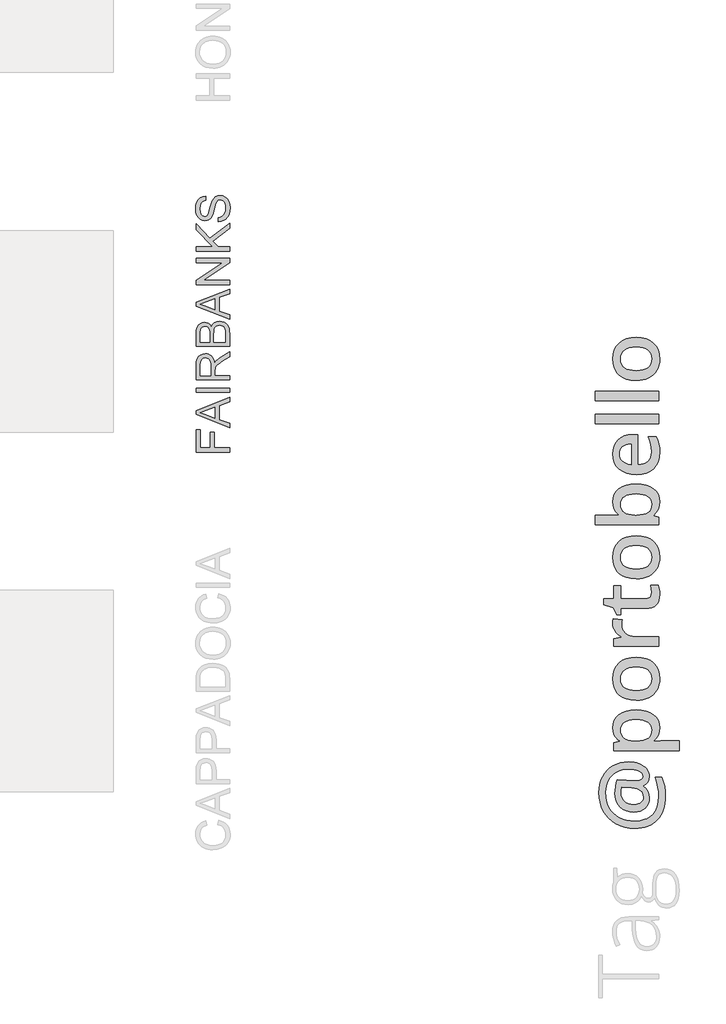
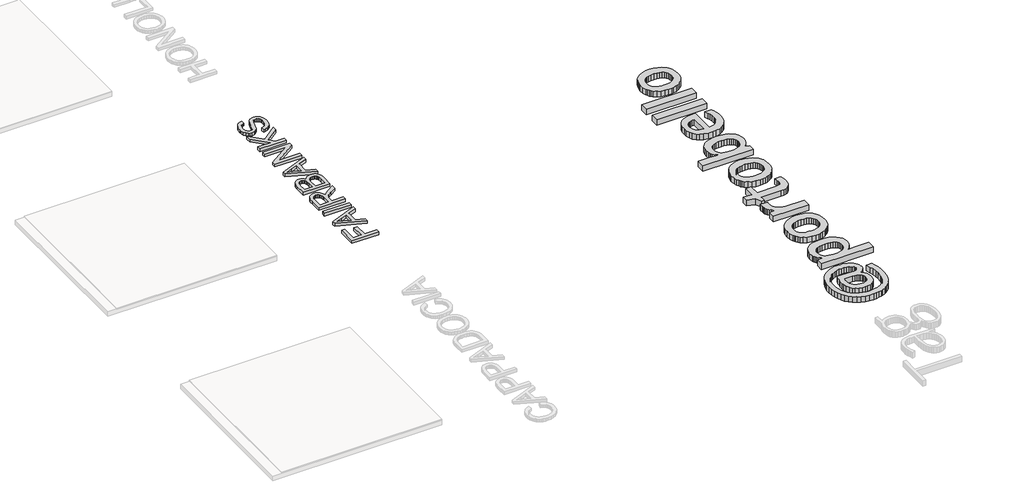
# One storey, part 3 of 7: 2 proxies.
"""IFC4 building model written with IfcOpenShell, lengths in millimetres."""

from ifc_helpers import new_model, si_unit, origin, origin_with_axes, place, context, project, spatial, polyline, outline, extrude, element, save

model = new_model("IFC4")

# Units and contexts
model_context = context("Model", 3, world=origin())
ifc_project = project(units=[si_unit("LENGTHUNIT", "METRE", prefix="MILLI")], contexts=[model_context])

# Site, building, storey
site = spatial("IfcSite", under=ifc_project)
building = spatial("IfcBuilding", under=site)
storey = spatial("IfcBuildingStorey", under=building, Name="PORTOBELLO - SHOWROOM", Elevation=0.0)

# Proxies
placement = place(None, origin())
element("IfcBuildingElementProxy", 1, Name="450mm Arial", ObjectType="450mm Arial", at=placement, inside=storey, context=model_context, shape_type="SweptSolid", body=[
    extrude(outline(polyline([(49549.5356427, -4833.0640138), (49099.8794999, -4833.0640138), (49099.8794999, -4530.9512928), (49156.0865178, -4530.9512928), (49156.0865178, -4776.8569959), (49289.5781852, -4776.8569959), (49289.5781852, -4566.080679), (49345.785203, -4566.080679), (49345.785203, -4776.8569959), (49549.5356427, -4776.8569959), (49549.5356427, -4833.0640138)])), origin_with_axes(), (0.0, 0.0, 1.0), 50.0),
    extrude(outline(polyline([(49549.5356427, -4506.0313845), (49099.8794999, -4326.5421771), (49099.8794999, -4278.6783885), (49549.5356427, -4099.1891811), (49549.5356427, -4158.5797995), (49409.0180981, -4210.0663061), (49409.0180981, -4395.2640388), (49549.5356427, -4446.640766), (49549.5356427, -4506.0313845)]), holes=[polyline([(49352.8110803, -4374.6255244), (49352.8110803, -4230.5950412), (49242.2632932, -4271.1036146), (49156.0865178, -4302.6102828), (49232.602712, -4330.6040124), (49352.8110803, -4374.6255244)])]), origin_with_axes(), (0.0, 0.0, 1.0), 50.0),
    extrude(outline(polyline([(49549.5356427, -4032.1140094), (49099.8794999, -4032.1140094), (49099.8794999, -3975.9069915), (49549.5356427, -3975.9069915), (49549.5356427, -4032.1140094)])), origin_with_axes(), (0.0, 0.0, 1.0), 50.0),
    extrude(outline(polyline([(49549.5356427, -3863.4929558), (49099.8794999, -3863.4929558), (49099.8794999, -3669.7324353), (49102.912154, -3617.6558648), (49112.0101161, -3579.7682729), (49128.8063538, -3552.0764365), (49154.9338348, -3530.5871323), (49187.3324601, -3516.7961038), (49222.9421308, -3512.1990942), (49246.0369577, -3514.1030795), (49267.2380912, -3519.8150354), (49286.5455311, -3529.3349618), (49303.9592776, -3542.6628588), (49318.9235728, -3559.9702566), (49330.8826588, -3581.4286853), (49339.8365355, -3607.0381451), (49345.785203, -3636.7986358), (49369.8268767, -3604.8528502), (49427.6805845, -3559.2944276), (49549.5356427, -3484.315144), (49549.5356427, -3549.6338464), (49456.3329901, -3608.1462302), (49394.6370057, -3650.4112729), (49376.6469177, -3666.1234398), (49365.4905931, -3680.1065821), (49354.7871082, -3706.8378494), (49352.8110803, -3739.442311), (49352.8110803, -3807.285938), (49549.5356427, -3807.285938), (49549.5356427, -3863.4929558)]), holes=[polyline([(49296.6040624, -3807.285938), (49296.6040624, -3681.4788238), (49294.614312, -3645.3477012), (49288.6450609, -3617.3128044), (49278.2983588, -3596.2077279), (49263.1762559, -3580.8660663), (49244.8842747, -3571.5211006), (49225.0279381, -3568.4061121), (49210.6537069, -3569.8915637), (49197.61055, -3574.3479184), (49175.5174595, -3592.1733374), (49167.0164225, -3605.782544), (49160.9442532, -3622.8429382), (49156.0865178, -3667.31729), (49156.0865178, -3807.285938), (49296.6040624, -3807.285938)])]), origin_with_axes(), (0.0, 0.0, 1.0), 50.0),
    extrude(outline(polyline([(49549.5356427, -3413.836813), (49099.8794999, -3413.836813), (49099.8794999, -3242.2517175), (49103.1866023, -3195.0603273), (49113.1079094, -3158.215639), (49129.8904247, -3129.974906), (49153.7811518, -3108.5953811), (49181.8846607, -3095.1336905), (49211.3055217, -3090.6464604), (49238.3798493, -3094.4201249), (49263.8349319, -3105.7411185), (49286.1064138, -3124.6917756), (49303.6299396, -3151.3544308), (49320.2615084, -3119.5047022), (49345.5656444, -3095.9707579), (49377.8682127, -3081.4387189), (49415.4950787, -3076.5947059), (49446.8508003, -3079.9018083), (49475.9286008, -3089.8231154), (49500.6563953, -3104.6296027), (49518.9620989, -3122.5922459), (49532.2179532, -3144.5892795), (49541.7961999, -3171.4989382), (49547.600782, -3204.1994566), (49549.5356427, -3243.5690695), (49549.5356427, -3413.836813)]), holes=[polyline([(49282.552308, -3357.6297952), (49282.552308, -3254.98612), (49281.3447353, -3219.0882785), (49277.7220174, -3195.0466048), (49269.3925106, -3174.0650301), (49256.918834, -3158.9840944), (49240.4931015, -3149.8861322), (49220.3074269, -3146.8534782), (49200.7118161, -3149.680296), (49183.6411301, -3158.1607494), (49170.3166637, -3171.9106107), (49161.959712, -3190.5456522), (49157.5548163, -3219.1431682), (49156.0865178, -3262.7804525), (49156.0865178, -3357.6297952), (49282.552308, -3357.6297952)]), polyline([(49493.3286249, -3357.6297952), (49493.3286249, -3242.3614968), (49491.1330383, -3200.6453508), (49486.2615804, -3181.2830211), (49478.8926428, -3165.3512956), (49468.3401045, -3152.3973345), (49453.9178448, -3141.9682979), (49436.2708172, -3135.0933673), (49416.0439754, -3132.8017237), (49392.5511984, -3135.4913174), (49372.3518013, -3143.5600983), (49356.5573, -3157.65302), (49346.27921, -3178.4150361), (49340.6392969, -3207.8221746), (49338.7593258, -3247.8504634), (49338.7593258, -3357.6297952), (49493.3286249, -3357.6297952)])]), origin_with_axes(), (0.0, 0.0, 1.0), 50.0),
    extrude(outline(polyline([(49549.5356427, -3051.6747976), (49099.8794999, -2872.1855902), (49099.8794999, -2824.3218015), (49549.5356427, -2644.8325941), (49549.5356427, -2704.2232126), (49409.0180981, -2755.7097192), (49409.0180981, -2940.9074519), (49549.5356427, -2992.2841791), (49549.5356427, -3051.6747976)]), holes=[polyline([(49352.8110803, -2920.2689375), (49352.8110803, -2776.2384542), (49242.2632932, -2816.7470277), (49156.0865178, -2848.2536959), (49232.602712, -2876.2474255), (49352.8110803, -2920.2689375)])]), origin_with_axes(), (0.0, 0.0, 1.0), 50.0),
    extrude(outline(polyline([(49549.5356427, -2584.7832997), (49099.8794999, -2584.7832997), (49099.8794999, -2524.6242259), (49456.1134314, -2289.696456), (49099.8794999, -2289.696456), (49099.8794999, -2233.4894381), (49549.5356427, -2233.4894381), (49549.5356427, -2293.6485119), (49193.1919319, -2528.5762818), (49549.5356427, -2528.5762818), (49549.5356427, -2584.7832997)])), origin_with_axes(), (0.0, 0.0, 1.0), 50.0),
    extrude(outline(polyline([(49549.5356427, -2135.1271569), (49099.8794999, -2135.1271569), (49099.8794999, -2078.920139), (49319.9870601, -2078.920139), (49099.8794999, -1848.3835424), (49099.8794999, -1769.7815408), (49284.7478946, -1963.3225027), (49549.5356427, -1762.7556636), (49549.5356427, -1831.4775253), (49322.7315434, -2003.1724001), (49394.9663437, -2078.920139), (49549.5356427, -2078.920139), (49549.5356427, -2135.1271569)])), origin_with_axes(), (0.0, 0.0, 1.0), 50.0),
    extrude(outline(polyline([(49394.9663437, -1741.6780319), (49394.9663437, -1685.4710141), (49426.1573963, -1679.0214783), (49451.2282512, -1667.3574243), (49471.1257551, -1649.1615001), (49486.7967547, -1623.1163536), (49496.9650653, -1591.2803474), (49500.3545021, -1555.7118439), (49497.7884102, -1524.3972896), (49490.0901346, -1496.9799014), (49477.9046288, -1474.7633092), (49461.8768464, -1459.0511423), (49443.4750859, -1449.7061767), (49424.1676459, -1446.5911882), (49405.3542129, -1448.923999), (49389.0931494, -1455.9224314), (49375.2197864, -1470.1388548), (49363.5694548, -1494.1256388), (49342.1075954, -1575.9661306), (49327.9048944, -1629.6893911), (49314.3883142, -1664.0640444), (49295.4788243, -1692.0440515), (49272.5623888, -1711.8729433), (49246.1330146, -1723.6879439), (49216.6847089, -1727.6262774), (49183.7646318, -1722.7548196), (49153.0675862, -1708.1404461), (49127.0498845, -1684.1673845), (49108.1678395, -1651.2198625), (49096.6821769, -1611.6718583), (49092.8536227, -1567.8973498), (49096.8605683, -1520.4726784), (49108.8814051, -1478.976091), (49128.6691297, -1444.8896085), (49155.9767385, -1419.6952519), (49189.1026518, -1403.749804), (49226.3452901, -1397.4100476), (49226.3452901, -1453.6170654), (49208.4100918, -1457.3770075), (49192.8077043, -1463.9363226), (49179.5381275, -1473.2950106), (49168.6013616, -1485.4530716), (49160.0522961, -1500.6369254), (49153.9458208, -1519.072992), (49149.0606406, -1565.7017631), (49153.8909311, -1613.4283276), (49159.9287944, -1631.6722803), (49168.3818029, -1646.1700133), (49189.7064381, -1665.106948), (49201.8713603, -1669.8411817), (49215.0380189, -1671.4192596), (49236.6371025, -1666.9457518), (49254.0096817, -1653.5252285), (49269.5434571, -1621.7990016), (49285.4065706, -1561.7497072), (49300.4737839, -1499.7792744), (49313.6198588, -1462.2896326), (49334.0113697, -1430.2477902), (49359.1782815, -1407.8939737), (49388.8461459, -1394.7616212), (49422.7405146, -1390.3841703), (49457.3896162, -1395.4202972), (49489.9803553, -1410.5286777), (49518.0289745, -1435.0918032), (49539.0517166, -1468.4921649), (49552.1840691, -1508.6576779), (49556.56152, -1553.5162573), (49551.8410087, -1608.5843146), (49537.6794749, -1653.9094562), (49527.0446022, -1673.0487965), (49514.0220289, -1690.0131339), (49498.6117552, -1704.8024683), (49480.8137811, -1717.4167996), (49440.3600973, -1735.0089375), (49394.9663437, -1741.6780319)])), origin_with_axes(), (0.0, 0.0, 1.0), 50.0),
])
element("IfcBuildingElementProxy", 2, Name="80mm OpenSans Bold", ObjectType="80mm OpenSans Bold", at=placement, inside=storey, context=model_context, shape_type="SweptSolid", body=[
    extrude(outline(polyline([(54902.9525413, -8989.9050274), (54941.058156, -8991.4523873), (54977.4962275, -8996.0944669), (55012.2667558, -9003.8312662), (55045.369741, -9014.6627853), (55075.8512282, -9028.3035888), (55102.7572624, -9044.4682415), (55126.0878438, -9063.1567432), (55145.8429722, -9084.369094), (55161.564449, -9107.7146983), (55172.7940752, -9132.8029603), (55179.531851, -9159.63388), (55181.7777762, -9188.2074574), (55176.0690699, -9228.8294097), (55168.933187, -9246.9770867), (55158.9429509, -9263.6825641), (55146.5190032, -9278.3599485), (55132.0819854, -9290.4233463), (55115.6318975, -9299.8727576), (55097.1687394, -9306.7081822), (55097.1687394, -9313.4384465), (55134.185193, -9343.6044526), (55160.625517, -9380.2603563), (55176.4897114, -9422.6249663), (55181.7777762, -9469.9170913), (55178.2248577, -9512.5821596), (55167.5661021, -9550.4398962), (55149.8015094, -9583.4903012), (55124.9310796, -9611.7333746), (55093.9913937, -9634.3428562), (55058.0190324, -9650.4924859), (55017.0139958, -9660.1822637), (54970.976284, -9663.4121897), (54917.832735, -9659.1306599), (54869.9321821, -9646.2860707), (54827.2746253, -9624.878422), (54789.8600645, -9594.9077139), (54759.4161347, -9557.7260082), (54737.6704705, -9514.6853672), (54724.6230719, -9465.7857907), (54720.2739391, -9411.0272788), (54722.1067343, -9366.7096902), (54727.6051199, -9317.8852283), (54736.3484543, -9269.6616828), (54747.916096, -9227.1468437), (54999.099174, -9239.4055393), (55011.8386029, -9239.4055393), (55049.6963395, -9235.8000406), (55076.73758, -9224.9835444), (55086.2020141, -9216.8711723), (55092.9623242, -9206.9560508), (55098.3705723, -9181.7175597), (55094.9077913, -9160.9634076), (55084.519448, -9142.4476694), (55067.2055427, -9126.1703449), (55042.9660752, -9112.1314342), (55013.3634284, -9100.8266934), (54979.959985, -9092.7518786), (54942.755745, -9087.9069897), (54901.7507084, -9086.2920267), (54856.6594399, -9088.7107154), (54814.4075017, -9095.9667816), (54774.9948938, -9108.0602253), (54738.421616, -9124.9910464), (54705.2810736, -9146.3836722), (54676.1666713, -9171.8625298), (54651.0784094, -9201.4276194), (54630.0162876, -9235.0789409), (54613.3483675, -9272.0803715), (54601.4427102, -9311.6957888), (54594.2993159, -9353.9251927), (54591.9181844, -9398.7685831), (54594.9077438, -9455.7429744), (54603.8764219, -9508.8865234), (54618.8242187, -9558.1992299), (54639.7511342, -9603.6810941), (54666.2290155, -9644.6711078), (54697.8297095, -9680.5082628), (54734.5532164, -9711.1925593), (54776.399536, -9736.7239971), (54822.587477, -9756.8096296), (54872.3358479, -9771.15651), (54925.6446489, -9779.7646382), (54982.5138799, -9782.6340143), (55056.6895047, -9777.2783464), (55121.7762682, -9761.2113427), (55150.911327, -9749.1610899), (55177.7741703, -9734.4330032), (55202.3647984, -9717.0270825), (55224.6832111, -9696.9433278), (55244.541622, -9674.3582585), (55261.7522449, -9649.4483936), (55276.3150796, -9622.2137331), (55288.2301261, -9592.6542772), (55304.1168549, -9526.5609786), (55309.4124312, -9451.1684979), (55306.3177114, -9389.454378), (55297.0335522, -9326.418242), (55281.5599535, -9262.0600897), (55259.8969153, -9196.3799212), (55350.0343835, -9196.3799212), (55370.6458179, -9255.6002378), (55385.368271, -9317.4044951), (55394.2017429, -9381.7926932), (55397.1462335, -9448.7648321), (55395.4505224, -9498.3798747), (55390.3633891, -9545.1893887), (55381.8848335, -9589.1933739), (55370.0148556, -9630.3918305), (55354.7534555, -9668.7847584), (55336.1006332, -9704.3721575), (55314.0563886, -9737.154028), (55288.6207218, -9767.1303697), (55260.1504269, -9793.9180986), (55229.0022981, -9817.1341302), (55195.1763353, -9836.7784647), (55158.6725385, -9852.851102), (55119.4909078, -9865.3520421), (55077.6314432, -9874.281285), (55033.0941446, -9879.6388308), (54985.879012, -9881.4246794), (54916.811177, -9877.5637912), (54851.6643219, -9865.9811265), (54790.4384466, -9846.6766854), (54733.1335512, -9819.6504679), (54681.0340946, -9785.7738027), (54635.4245357, -9745.9180189), (54596.3048745, -9700.0831163), (54563.675111, -9648.269095), (54537.9633982, -9591.6477421), (54519.5978891, -9531.3908446), (54508.5785836, -9467.4984026), (54504.9054818, -9399.970416), (54507.9701557, -9341.749123), (54517.1641775, -9286.7878018), (54532.4875471, -9235.0864523), (54553.9402645, -9186.6450746), (54581.0566195, -9142.4626923), (54613.3709018, -9103.5383289), (54650.8831115, -9069.8719846), (54693.5932485, -9041.4636592), (54740.6600298, -9018.9067578), (54791.2421724, -9002.7946853), (54845.3396762, -8993.1274419), (54902.9525413, -8989.9050274)]), holes=[polyline([(54972.8992166, -9558.1316268), (55002.3065656, -9556.542954), (55027.7929347, -9551.7769353), (55049.358324, -9543.8335709), (55067.0027334, -9532.7128608), (55080.7261629, -9518.4148049), (55090.5286126, -9500.9394033), (55096.4100824, -9480.2866559), (55098.3705723, -9456.4565627), (55095.9068149, -9431.1730029), (55088.5155425, -9408.9240712), (55076.1967552, -9389.7097675), (55058.9504529, -9373.530092), (55036.7766357, -9360.3850445), (55009.6753036, -9350.2746252), (54977.6464566, -9343.1988339), (54940.6900946, -9339.1576708), (54812.0939734, -9332.4274065), (54805.2435258, -9368.7227604), (54802.9600433, -9407.42178), (54805.8219079, -9441.0355442), (54814.4075017, -9470.7283285), (54828.7168248, -9496.500133), (54848.7498771, -9518.3509575), (54873.6803985, -9535.7550004), (54902.6821289, -9548.1864595), (54935.7550683, -9555.645335), (54972.8992166, -9558.1316268)])]), origin_with_axes(), (0.0, 0.0, 1.0), 100.0),
    extrude(outline(polyline([(55320.2289274, -8531.2855893), (55315.031, -8584.8422683), (55299.437218, -8632.0592787), (55273.4475814, -8672.9366205), (55237.06209, -8707.4742937), (55237.06209, -8715.1660244), (55331.0454235, -8707.4742937), (55581.7477684, -8707.4742937), (55581.7477684, -8836.3107816), (54704.8904779, -8836.3107816), (54704.8904779, -8731.9916851), (54782.0481506, -8713.9641914), (54782.0481506, -8707.4742937), (54760.3588224, -8691.6439009), (54741.5614045, -8673.9581785), (54725.6558971, -8654.4171265), (54712.6423001, -8633.020745), (54702.5206136, -8609.769034), (54695.2908375, -8584.6619933), (54689.5070166, -8528.8819234), (54694.6673867, -8476.07639), (54710.1484968, -8429.4302502), (54735.9503471, -8388.9435041), (54772.0729375, -8354.6161516), (54817.5097329, -8327.2744529), (54871.2541983, -8307.7446682), (54933.3063337, -8296.0267973), (55003.6661391, -8292.1208403), (55074.1987079, -8296.0944004), (55136.5287672, -8308.0150806), (55190.6563168, -8327.8828808), (55236.5813569, -8355.6978012), (55273.177169, -8390.5133983), (55299.3170347, -8431.3832287), (55315.0009542, -8478.3072923), (55320.2289274, -8531.2855893)]), holes=[polyline([(54797.1912453, -8562.7736115), (54799.9855068, -8597.859621), (54808.3682913, -8627.8829093), (54822.3395989, -8652.8434766), (54841.8994295, -8672.7413227), (54867.5886079, -8687.9369975), (54899.947959, -8698.791051), (54938.9774827, -8705.303483), (54984.6771791, -8707.4742937), (55003.6661391, -8707.4742937), (55055.0144501, -8705.3260174), (55098.7311222, -8698.8811884), (55134.8161553, -8688.1398068), (55163.2695494, -8673.1018725), (55184.8274272, -8653.1814921), (55200.2259114, -8627.7927719), (55209.4650019, -8596.9357119), (55212.5446987, -8560.6103122), (55209.1344978, -8529.6856492), (55198.9038952, -8502.5317369), (55181.8528908, -8479.1485754), (55157.9814846, -8459.5361646), (55127.8154786, -8444.0250086), (55091.8806746, -8432.9456115), (55050.1770727, -8426.2979732), (55002.7046728, -8424.0820938), (54955.0745323, -8426.2829503), (54913.6188084, -8432.8855198), (54878.337501, -8443.8898024), (54849.2306103, -8459.295798), (54826.4633881, -8478.9683004), (54810.2010865, -8502.7721035), (54800.4437056, -8530.7072072), (54797.1912453, -8562.7736115)])]), origin_with_axes(), (0.0, 0.0, 1.0), 100.0),
    extrude(outline(polyline([(55003.6661391, -7584.0008903), (55074.1987079, -7588.8082219), (55136.5287672, -7603.2302168), (55190.6563168, -7627.266875), (55236.5813569, -7660.9181964), (55256.1862562, -7681.0902107), (55273.177169, -7703.1476003), (55287.5540951, -7727.0903653), (55299.3170347, -7752.9185056), (55315.0009542, -7810.2309125), (55320.2289274, -7875.0848209), (55317.8177501, -7916.7358426), (55310.5842183, -7955.8780382), (55298.5283319, -7992.5114075), (55281.650091, -8026.6359507), (55260.2724881, -8057.6131939), (55234.7185159, -8084.8046635), (55204.9881743, -8108.2103594), (55171.0814633, -8127.8302817), (55133.6218338, -8143.3414376), (55093.2327366, -8154.4208348), (55049.9141717, -8161.068473), (55003.6661391, -8163.2843525), (54933.6969294, -8158.5145781), (54871.8551148, -8144.205255), (54818.1406952, -8120.3563833), (54772.5536707, -8086.9679627), (54753.0896111, -8066.9104982), (54736.2207595, -8044.8962995), (54721.9471159, -8020.9253665), (54710.2686801, -7994.9976994), (54694.6974325, -7937.2721625), (54689.5070166, -7871.7196887), (54694.8251273, -7808.8262703), (54710.7794591, -7752.8283682), (54737.3700122, -7703.7259824), (54774.5967866, -7661.5191129), (54820.8222849, -7627.6048905), (54874.4090097, -7603.3804459), (54935.3569611, -7588.8457792), (55003.6661391, -7584.0008903)]), holes=[polyline([(55003.6661391, -8030.6019993), (55052.6220515, -8028.1382418), (55095.0505089, -8020.7469694), (55130.9515113, -8008.4281821), (55160.3250588, -7991.1818799), (55183.1711512, -7969.0080627), (55199.4897887, -7941.9067306), (55209.2809712, -7909.8778836), (55212.5446987, -7872.9215216), (55209.2809712, -7836.3031752), (55199.4897887, -7804.5672749), (55183.1711512, -7777.7138209), (55160.3250588, -7755.742813), (55130.9515113, -7738.6542513), (55095.0505089, -7726.4481358), (55052.6220515, -7719.1244665), (55003.6661391, -7716.6832434), (54955.2735859, -7719.1394894), (54913.3333731, -7726.5082275), (54877.8455007, -7738.7894575), (54848.8099687, -7755.9831796), (54826.2267772, -7778.0893936), (54810.0959262, -7805.1080997), (54800.4174155, -7837.0392978), (54797.1912453, -7873.882988), (54800.5263316, -7912.2740379), (54810.5315906, -7945.0014504), (54827.2070222, -7972.0652252), (54850.5526265, -7993.4653624), (54880.1327389, -8009.7126411), (54915.5116952, -8021.3178401), (54956.6894952, -8028.2809595), (55003.6661391, -8030.6019993)])]), origin_with_axes(), (0.0, 0.0, 1.0), 100.0),
    extrude(outline(polyline([(54689.5070166, -7133.3135493), (54690.8891245, -7098.6406699), (54695.035448, -7070.5778715), (54815.2187389, -7082.8365671), (54810.1710407, -7110.2383575), (54808.4884746, -7138.6016141), (54811.6282631, -7174.6566014), (54821.0476285, -7207.10609), (54836.7465709, -7235.9500798), (54858.7250902, -7261.1885709), (54885.721262, -7281.6948449), (54916.4731615, -7296.3421835), (54950.9807889, -7305.1305866), (54989.2441442, -7308.0600543), (55304.8454661, -7308.0600543), (55304.8454661, -7436.8965422), (54704.8904779, -7436.8965422), (54704.8904779, -7335.9425778), (54807.0462751, -7318.8765505), (54807.0462751, -7312.3866528), (54781.4021654, -7296.5900615), (54758.5523173, -7278.5250106), (54738.4967306, -7258.1915), (54721.2354054, -7235.5895299), (54707.3542353, -7211.3951311), (54697.4391138, -7186.2843348), (54691.4900409, -7160.2571409), (54689.5070166, -7133.3135493)])), origin_with_axes(), (0.0, 0.0, 1.0), 100.0),
    extrude(outline(polyline([(55212.5446987, -6714.3545972), (55208.8791083, -6666.4615558), (55197.8823372, -6618.4483311), (55297.6344687, -6618.4483311), (55306.4679405, -6643.206089), (55313.7390296, -6674.213378), (55318.6064529, -6708.9463491), (55320.2289274, -6744.8811531), (55317.1942993, -6788.2598097), (55308.090415, -6825.8546453), (55292.9172745, -6857.6656602), (55271.6748778, -6883.6928541), (55244.363225, -6903.9362272), (55210.9823159, -6918.3957794), (55171.5321507, -6927.0715107), (55126.0127292, -6929.9634211), (54797.1912453, -6929.9634211), (54797.1912453, -7013.6109916), (54743.1087644, -7013.6109916), (54698.4005802, -6923.9542566), (54566.4393267, -6879.9671721), (54566.4393267, -6800.4058335), (54704.8904779, -6800.4058335), (54704.8904779, -6624.6978622), (54797.1912453, -6624.6978622), (54797.1912453, -6800.4058335), (55121.6861308, -6800.4058335), (55143.3717033, -6798.9260767), (55162.0376707, -6794.4868064), (55177.6840329, -6787.0880226), (55190.3107899, -6776.7297252), (55200.038125, -6763.9527391), (55206.9862215, -6749.297889), (55212.5446987, -6714.3545972)])), origin_with_axes(), (0.0, 0.0, 1.0), 100.0),
    extrude(outline(polyline([(55003.6661391, -5953.3539991), (55074.1987079, -5958.1613308), (55136.5287672, -5972.5833257), (55190.6563168, -5996.6199839), (55236.5813569, -6030.2713053), (55256.1862562, -6050.4433195), (55273.177169, -6072.5007092), (55287.5540951, -6096.4434741), (55299.3170347, -6122.2716145), (55315.0009542, -6179.5840214), (55320.2289274, -6244.4379297), (55317.8177501, -6286.0889515), (55310.5842183, -6325.231147), (55298.5283319, -6361.8645164), (55281.650091, -6395.9890596), (55260.2724881, -6426.9663028), (55234.7185159, -6454.1577724), (55204.9881743, -6477.5634683), (55171.0814633, -6497.1833905), (55133.6218338, -6512.6945465), (55093.2327366, -6523.7739436), (55049.9141717, -6530.4215819), (55003.6661391, -6532.6374613), (54933.6969294, -6527.867687), (54871.8551148, -6513.5583639), (54818.1406952, -6489.7094921), (54772.5536707, -6456.3210716), (54753.0896111, -6436.2636071), (54736.2207595, -6414.2494083), (54721.9471159, -6390.2784754), (54710.2686801, -6364.3508082), (54694.6974325, -6306.6252713), (54689.5070166, -6241.0727976), (54694.8251273, -6178.1793792), (54710.7794591, -6122.181477), (54737.3700122, -6073.0790912), (54774.5967866, -6030.8722218), (54820.8222849, -5996.9579994), (54874.4090097, -5972.7335548), (54935.3569611, -5958.198888), (55003.6661391, -5953.3539991)]), holes=[polyline([(55003.6661391, -6399.9551082), (55052.6220515, -6397.4913507), (55095.0505089, -6390.1000783), (55130.9515113, -6377.781291), (55160.3250588, -6360.5349887), (55183.1711512, -6338.3611716), (55199.4897887, -6311.2598395), (55209.2809712, -6279.2309924), (55212.5446987, -6242.2746305), (55209.2809712, -6205.656284), (55199.4897887, -6173.9203838), (55183.1711512, -6147.0669297), (55160.3250588, -6125.0959218), (55130.9515113, -6108.0073602), (55095.0505089, -6095.8012447), (55052.6220515, -6088.4775754), (55003.6661391, -6086.0363523), (54955.2735859, -6088.4925983), (54913.3333731, -6095.8613363), (54877.8455007, -6108.1425664), (54848.8099687, -6125.3362884), (54826.2267772, -6147.4425025), (54810.0959262, -6174.4612086), (54800.4174155, -6206.3924067), (54797.1912453, -6243.2360968), (54800.5263316, -6281.6271468), (54810.5315906, -6314.3545592), (54827.2070222, -6341.418334), (54850.5526265, -6362.8184713), (54880.1327389, -6379.0657499), (54915.5116952, -6390.6709489), (54956.6894952, -6397.6340684), (55003.6661391, -6399.9551082)])]), origin_with_axes(), (0.0, 0.0, 1.0), 100.0),
    extrude(outline(polyline([(54689.5070166, -5498.3400597), (54694.6673867, -5445.5345263), (54710.1484968, -5398.8883865), (54735.9503471, -5358.4016404), (54772.0729375, -5324.0742879), (54817.5097329, -5296.7325892), (54871.2541983, -5277.2028044), (54933.3063337, -5265.4849336), (55003.6661391, -5261.5789766), (55074.3940058, -5265.5300023), (55136.8292254, -5277.3830794), (55190.971798, -5297.1382078), (55236.8217235, -5324.7953876), (55273.3123752, -5359.48329), (55299.3771264, -5400.330586), (55315.0159771, -5447.3372756), (55320.2289274, -5500.503359), (55315.031, -5554.1651984), (55299.437218, -5601.4573233), (55273.4475814, -5642.3797339), (55237.06209, -5676.93243), (55237.06209, -5685.585627), (55304.8454661, -5709.141552), (55304.8454661, -5805.7689179), (54458.7550981, -5805.7689179), (54458.7550981, -5676.93243), (54658.7400942, -5676.93243), (54724.7207209, -5679.0957293), (54780.3655846, -5682.2204948), (54780.3655846, -5676.93243), (54759.0706077, -5660.8917164), (54740.6149611, -5643.0557649), (54724.9986447, -5623.4245755), (54712.2216586, -5601.9981481), (54702.2840027, -5578.7764829), (54695.1856771, -5553.7595797), (54689.5070166, -5498.3400597)]), holes=[polyline([(54797.1912453, -5532.2317478), (54800.038087, -5567.775956), (54808.5786121, -5597.9720079), (54822.8128206, -5622.8199033), (54842.7407125, -5642.3196422), (54869.3387771, -5657.102187), (54903.5835036, -5667.7984999), (54945.4748919, -5674.4085809), (54995.0129421, -5676.93243), (55003.6661391, -5676.93243), (55055.0144501, -5674.7841537), (55098.7311222, -5668.3393247), (55134.8161553, -5657.5979431), (55163.2695494, -5642.5600088), (55184.8274272, -5622.6396284), (55200.2259114, -5597.2509081), (55209.4650019, -5566.3938482), (55212.5446987, -5530.0684485), (55209.1720551, -5498.5578919), (55199.0541243, -5471.0884985), (55182.1909063, -5447.6602682), (55158.5824011, -5428.2732011), (55128.6041814, -5413.0775263), (55092.6318202, -5402.2234728), (55050.6653173, -5395.7110407), (55002.7046728, -5393.54023), (54954.5374632, -5395.707285), (54912.7925482, -5402.2084499), (54877.4699279, -5413.0437247), (54848.5696022, -5428.2131095), (54826.091571, -5447.7166042), (54810.0358345, -5471.5542088), (54800.4023926, -5499.7259233), (54797.1912453, -5532.2317478)])]), origin_with_axes(), (0.0, 0.0, 1.0), 100.0),
    extrude(outline(polyline([(55320.2289274, -4832.7649946), (55315.0535344, -4899.5793929), (55299.5273555, -4958.6870377), (55287.8827213, -4985.3508275), (55273.6503907, -5010.0879289), (55256.8303635, -5032.898342), (55237.4226399, -5053.7820666), (55192.1060278, -5088.6427324), (55138.9624788, -5113.543208), (55077.9919931, -5128.4834934), (55009.1945705, -5133.4635885), (54938.6620016, -5128.8440433), (54876.0915758, -5114.9854075), (54821.483293, -5091.8876813), (54774.8371532, -5059.5508646), (54737.5052184, -5019.1317216), (54710.8395508, -4971.7870164), (54694.8401502, -4917.5167491), (54689.5070166, -4856.3209197), (54693.9988671, -4799.6019178), (54707.4744186, -4749.14747), (54729.9336711, -4704.9575762), (54761.3766246, -4667.0322365), (54800.6915836, -4636.5883066), (54846.7668528, -4614.8426424), (54899.6024321, -4601.7952439), (54959.1983214, -4597.446111), (55027.9431638, -4597.446111), (55027.9431638, -5000.7812353), (55069.8420636, -4996.8151867), (55106.6031278, -4987.5610733), (55138.2263562, -4973.0188951), (55164.7117489, -4953.1886521), (55185.6386644, -4928.4308942), (55200.5864612, -4899.1061712), (55209.5551393, -4865.2144832), (55212.5446987, -4826.7558301), (55210.0208496, -4774.9868775), (55202.4493023, -4726.8835153), (55188.9887737, -4678.9003364), (55168.7979808, -4627.4919338), (55276.722576, -4627.4919338), (55297.0335522, -4674.8741962), (55310.3738975, -4722.7972834), (55317.7651699, -4774.3859611), (55320.2289274, -4832.7649946)]), holes=[polyline([(54781.8077841, -4856.5612862), (54784.2640301, -4885.5780395), (54791.6327681, -4911.5751877), (54803.9139981, -4934.5527306), (54821.1077202, -4954.5106683), (54843.0036135, -4971.1034739), (54869.3913573, -4983.9856204), (54900.2709516, -4993.1571078), (54935.6423964, -4998.6179361), (54935.6423964, -4724.1192996), (54900.0756538, -4726.8309351), (54869.0908991, -4733.7640087), (54842.6881324, -4744.9185204), (54820.8673536, -4760.2944702), (54803.7787919, -4779.4261478), (54791.5726764, -4801.847843), (54784.2490072, -4827.5595558), (54781.8077841, -4856.5612862)])]), origin_with_axes(), (0.0, 0.0, 1.0), 100.0),
    extrude(outline(polyline([(55304.8454661, -4323.6685743), (55304.8454661, -4452.5050622), (54458.7550981, -4452.5050622), (54458.7550981, -4323.6685743), (55304.8454661, -4323.6685743)])), origin_with_axes(), (0.0, 0.0, 1.0), 100.0),
    extrude(outline(polyline([(55304.8454661, -4015.9993496), (55304.8454661, -4144.8358374), (54458.7550981, -4144.8358374), (54458.7550981, -4015.9993496), (55304.8454661, -4015.9993496)])), origin_with_axes(), (0.0, 0.0, 1.0), 100.0),
    extrude(outline(polyline([(55003.6661391, -3292.0152051), (55074.1987079, -3296.8225367), (55136.5287672, -3311.2445316), (55190.6563168, -3335.2811898), (55236.5813569, -3368.9325113), (55256.1862562, -3389.1045255), (55273.177169, -3411.1619151), (55287.5540951, -3435.1046801), (55299.3170347, -3460.9328205), (55315.0009542, -3518.2452273), (55320.2289274, -3583.0991357), (55317.8177501, -3624.7501575), (55310.5842183, -3663.892353), (55298.5283319, -3700.5257224), (55281.650091, -3734.6502655), (55260.2724881, -3765.6275088), (55234.7185159, -3792.8189783), (55204.9881743, -3816.2246743), (55171.0814633, -3835.8445965), (55133.6218338, -3851.3557525), (55093.2327366, -3862.4351496), (55049.9141717, -3869.0827879), (55003.6661391, -3871.2986673), (54933.6969294, -3866.528893), (54871.8551148, -3852.2195699), (54818.1406952, -3828.3706981), (54772.5536707, -3794.9822776), (54753.0896111, -3774.924813), (54736.2207595, -3752.9106143), (54721.9471159, -3728.9396814), (54710.2686801, -3703.0120142), (54694.6974325, -3645.2864773), (54689.5070166, -3579.7340036), (54694.8251273, -3516.8405851), (54710.7794591, -3460.842683), (54737.3700122, -3411.7402972), (54774.5967866, -3369.5334277), (54820.8222849, -3335.6192053), (54874.4090097, -3311.3947608), (54935.3569611, -3296.860094), (55003.6661391, -3292.0152051)]), holes=[polyline([(55003.6661391, -3738.6163141), (55052.6220515, -3736.1525567), (55095.0505089, -3728.7612843), (55130.9515113, -3716.442497), (55160.3250588, -3699.1961947), (55183.1711512, -3677.0223775), (55199.4897887, -3649.9210454), (55209.2809712, -3617.8921984), (55212.5446987, -3580.9358365), (55209.2809712, -3544.31749), (55199.4897887, -3512.5815898), (55183.1711512, -3485.7281357), (55160.3250588, -3463.7571278), (55130.9515113, -3446.6685661), (55095.0505089, -3434.4624507), (55052.6220515, -3427.1387814), (55003.6661391, -3424.6975583), (54955.2735859, -3427.1538043), (54913.3333731, -3434.5225423), (54877.8455007, -3446.8037723), (54848.8099687, -3463.9974944), (54826.2267772, -3486.1037085), (54810.0959262, -3513.1224146), (54800.4174155, -3545.0536127), (54797.1912453, -3581.8973028), (54800.5263316, -3620.2883528), (54810.5315906, -3653.0157652), (54827.2070222, -3680.07954), (54850.5526265, -3701.4796773), (54880.1327389, -3717.7269559), (54915.5116952, -3729.3321549), (54956.6894952, -3736.2952743), (55003.6661391, -3738.6163141)])]), origin_with_axes(), (0.0, 0.0, 1.0), 100.0),
])

save(model, "model.ifc")
